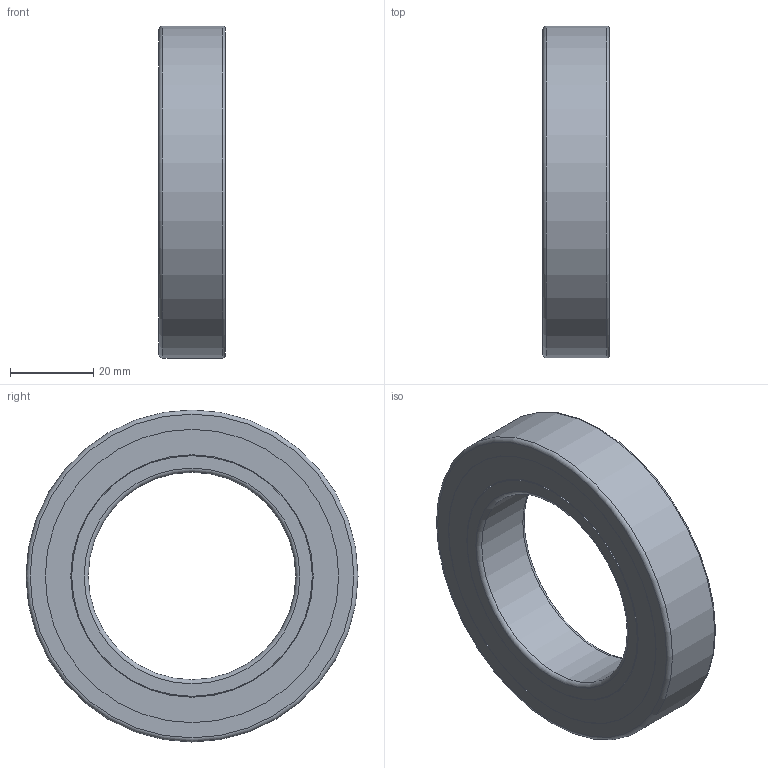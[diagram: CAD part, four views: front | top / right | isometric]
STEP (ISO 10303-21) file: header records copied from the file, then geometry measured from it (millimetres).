
FILE_DESCRIPTION(/* description */ (''),/* implementation_level */ '2;1');
FILE_NAME(/* name */ 'KH_6010_TA.step',/* time_stamp */ '2013-03-07T07:04:26+01:00',/* author */ ('Marian'),/* organization */ ('GMN'),/* preprocessor_version */ 'ST-DEVELOPER v11',/* originating_system */ 'SIEMENS UGS NX 6.0',/* authorisation */ '');
FILE_SCHEMA (('CONFIG_CONTROL_DESIGN'));
Length unit declared in the file: millimetre
Products named in the file (1): KH_6010_TA
Bounding box: 16 x 80 x 80 mm (x, y, z)
Volume: 39361.6 mm3; surface area: 30325.7 mm2
Topology: 30 solids, 30 shells, 82 faces, 206 edges, 134 vertices
Faces by surface type: cylinder 38, sphere 25, plane 12, torus 6, cone 1
Full cylindrical faces by diameter (mm): 6.55 x25, 50 x1, 58 x1, 58.4 x1, 59.7 x1, 60.1 x1, 63.59 x1, 67.48 x1, 67.88 x1, 70.7 x2, 73.1 x2, 80 x1
Entity records: 4592 total; most frequent: CARTESIAN_POINT 3122, DIRECTION 230, FACE_BOUND 189, EDGE_LOOP 164, ORIENTED_EDGE 164, AXIS2_PLACEMENT_3D 115, VERTEX_POINT 107, ADVANCED_FACE 82
